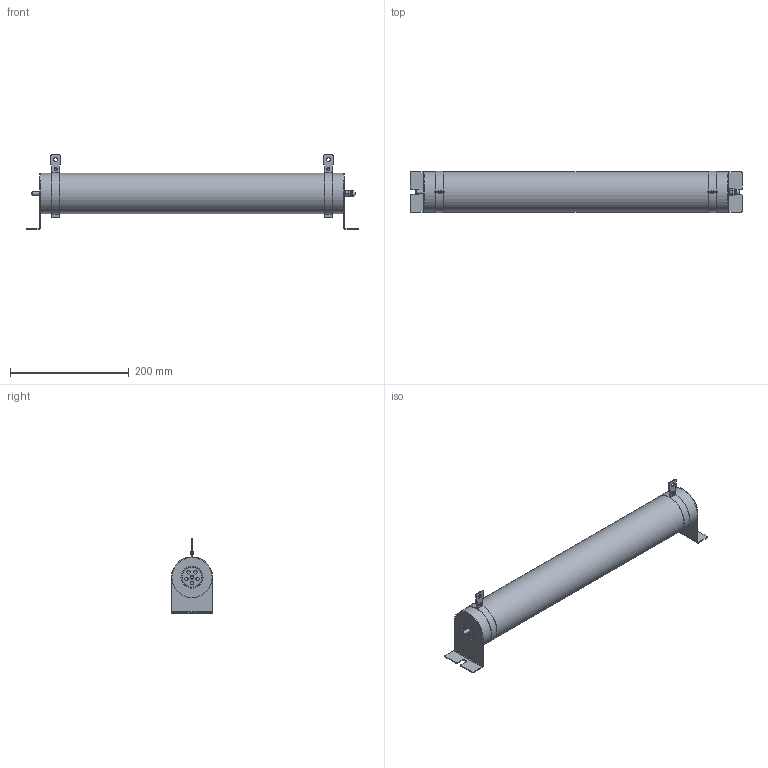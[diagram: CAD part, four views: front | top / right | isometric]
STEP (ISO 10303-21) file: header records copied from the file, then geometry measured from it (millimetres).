
FILE_DESCRIPTION(('STEP AP203'), '1');
FILE_NAME('Ðåçèñòîð òîðìîçíîé _ 2000 Âò 15 Îì', '', ('UNSPECIFIED'), ('UNSPECIFIED'), 'C3D Converter', 'C3D Toolkit', '');
FILE_SCHEMA(('CONFIG_CONTROL_DESIGN'));
Length unit declared in the file: millimetre
Products named in the file (16): 2000 Вт 15 Ом; РТ 2000 Вт 15 Ом; ГОСТ 22032-76; DIN 125 (A); DIN 127 (A); DIN 934; ГОСТ 11860-85; ГОСТ 10299-80
Assembly tree (19 placements, depth 3):
  2000 Вт 15 Ом
    РТ 2000 Вт 15 Ом
    РТ 2000 Вт 15 Ом  x2
    ГОСТ 22032-76  x2
      (unnamed)
    DIN 125 (A)
      (unnamed)
    DIN 127 (A)
      (unnamed)
    DIN 934
      (unnamed)
    ГОСТ 11860-85
      (unnamed)
    РТ 2000 Вт 15 Ом  x2
    ГОСТ 10299-80  x2
      (unnamed)
Bounding box: 560 x 69.5 x 125 mm (x, y, z)
Volume: 1877575 mm3; surface area: 166274.4 mm2
Topology: 15 solids, 15 shells, 287 faces, 632 edges, 385 vertices
Faces by surface type: plane 142, cylinder 108, cone 22, torus 12, sphere 3
Full cylindrical faces by diameter (mm): 3.5 x6, 4.917 x2, 5.7 x10, 6 x4, 6.4 x1, 6.5 x2, 6.8 x4, 9.5 x1, 12 x1, 35 x2, 68 x1
Entity records: 6908 total; most frequent: CARTESIAN_POINT 1807, DIRECTION 828, ORIENTED_EDGE 666, AXIS2_PLACEMENT_3D 342, EDGE_CURVE 333, EDGE_LOOP 242, VERTEX_POINT 225, ADVANCED_FACE 173
